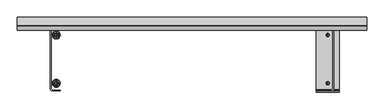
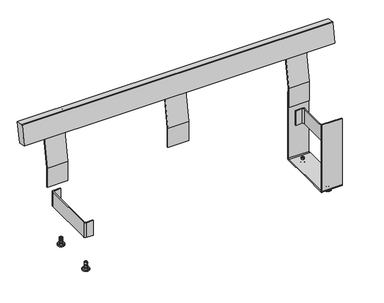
"""IFC4 building model written with IfcOpenShell, lengths in millimetres: furniture geometry, Roros Produkter - Femunden - Bench - 34360 : Roros Produkter - Femunden - Bench - 34360."""

from ifc_helpers import new_model, si_unit, point, frame, frame_2d, origin, place, context, project, spatial, polyline, circle_curve, ellipse_curve, trimmed, segment, composite_curve, outline, extrude, source, transform, mapped, element, save
from ifc_brep_helpers import plane_surface, cylinder_surface, revolved_surface, advanced_brep


def furniture_3aa35da2(model_context):
    return source(origin(), model_context, "Body", "SolidModel", [
        advanced_brep(
        [(-640.0, 160.0527389, 465.6907007), (-640.0, 160.0527389, 349.7), (-640.0, 165.0527389, 349.7), (-640.0, 165.0527389, 465.2180282), (-640.0, 214.1546168, 755.6299996), (-640.0, 211.1768601, 755.6299996), (-760.0, 165.0527389, 465.2180282), (-760.0, 165.0527389, 349.7), (-760.0, 160.0527389, 349.7), (-760.0, 160.0527389, 465.6907007), (-760.0, 211.1768601, 755.6299996), (-760.0, 214.1546168, 755.6299996), (-645.0, 212.058495, 760.6299996), (-755.0, 212.058495, 760.6299996), (-755.0, 215.0, 760.6299996), (-645.0, 215.0, 760.6299996)],
        [
            (0, 1),
            (1, 2),
            (2, 3),
            (3, 4),
            (4, 5),
            (5, 0),
            (6, 7),
            (7, 8),
            (8, 9),
            (9, 10),
            (10, 11),
            (11, 6),
            (0, 9),
            (8, 1),
            (7, 2),
            (6, 3),
            (5, 12, ellipse_curve(frame((-645.0, 211.1768601, 755.6299996), z_axis=(0.0, -0.9848077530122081, 0.17364817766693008), x_axis=(0.0, 0.17364817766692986, 0.9848077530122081)), 5.0771331, 5.0)),
            (12, 13),
            (13, 10, ellipse_curve(frame((-755.0, 211.1768601, 755.6299996), z_axis=(0.0, -0.9848077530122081, 0.17364817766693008), x_axis=(0.0, 0.17364817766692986, 0.9848077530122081)), 5.0771331, 5.0)),
            (11, 14, ellipse_curve(frame((-755.0, 214.1546168, 755.6299996), z_axis=(0.0, 0.9860058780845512, -0.16671055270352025), x_axis=(0.0, 0.16671055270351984, 0.9860058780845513)), 5.0709637, 5.0)),
            (14, 15),
            (15, 4, ellipse_curve(frame((-645.0, 214.1546168, 755.6299996), z_axis=(0.0, 0.9860058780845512, -0.16671055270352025), x_axis=(0.0, 0.16671055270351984, 0.9860058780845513)), 5.0709637, 5.0)),
            (13, 14),
            (12, 15),
        ],
        [
            plane_surface(frame((-640.0, 160.0527389, 464.7720697), z_axis=(1.0, 0.0, 0.0), x_axis=(0.0, 0.0, -1.0))),
            plane_surface(frame((-760.0, 160.0527389, 464.7720697), z_axis=(-1.0, 0.0, 0.0), x_axis=(0.0, 0.0, 1.0))),
            plane_surface(frame((-640.0, 160.0527389, 465.6907007), z_axis=(0.0, -1.0, 0.0), x_axis=(-1.0, 0.0, 0.0))),
            plane_surface(frame((-640.0, 160.0527389, 349.7), z_axis=(0.0, 0.0, -1.0), x_axis=(-1.0, 0.0, 0.0))),
            plane_surface(frame((-640.0, 165.0527389, 349.7), z_axis=(0.0, 1.0, 0.0), x_axis=(-1.0, 0.0, 0.0))),
            plane_surface(frame((-640.0, 212.1471922, 761.1330266), z_axis=(0.0, -0.9848077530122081, 0.17364817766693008), x_axis=(-1.0, 0.0, 0.0))),
            plane_surface(frame((-640.0, 165.0527389, 465.2180282), z_axis=(0.0, 0.9860058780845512, -0.16671055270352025), x_axis=(-1.0, 0.0, 0.0))),
            cylinder_surface(frame((-755.0, 258.5708955, 755.6299996), z_axis=(0.0, 1.0, 0.0), x_axis=(1.0, 0.0, 0.0)), 5.0),
            plane_surface(frame((-755.0, 184.0, 760.6299996), z_axis=(0.0, 0.0, 1.0), x_axis=(0.0, 1.0, 0.0))),
            cylinder_surface(frame((-645.0, 258.5708955, 755.6299996), z_axis=(0.0, 1.0, 0.0), x_axis=(-1.0, 0.0, 0.0)), 5.0),
        ],
        [
            (0, [[1, 2, 3, 4, 5, 6]]),
            (1, [[7, 8, 9, 10, 11, 12]]),
            (2, [[-1, 13, -9, 14]]),
            (3, [[-2, -14, -8, 15]]),
            (4, [[-3, -15, -7, 16]]),
            (5, [[-13, -6, 17, 18, 19, -10]]),
            (6, [[-16, -12, 20, 21, 22, -4]]),
            (7, [[23, -20, -11, -19]]),
            (8, [[-23, -18, 24, -21]]),
            (9, [[-24, -17, -5, -22]]),
        ],
    ),
        advanced_brep(
        [(60.0, 160.0527389, 465.6907007), (60.0, 160.0527389, 349.7), (60.0, 165.0527389, 349.7), (60.0, 165.0527389, 465.2180282), (60.0, 214.1546168, 755.6299996), (60.0, 211.1768601, 755.6299996), (-60.0, 165.0527389, 465.2180282), (-60.0, 165.0527389, 349.7), (-60.0, 160.0527389, 349.7), (-60.0, 160.0527389, 465.6907007), (-60.0, 211.1768601, 755.6299996), (-60.0, 214.1546168, 755.6299996), (55.0, 212.058495, 760.6299996), (-55.0, 212.058495, 760.6299996), (-55.0, 215.0, 760.6299996), (55.0, 215.0, 760.6299996)],
        [
            (0, 1),
            (1, 2),
            (2, 3),
            (3, 4),
            (4, 5),
            (5, 0),
            (6, 7),
            (7, 8),
            (8, 9),
            (9, 10),
            (10, 11),
            (11, 6),
            (0, 9),
            (8, 1),
            (7, 2),
            (6, 3),
            (5, 12, ellipse_curve(frame((55.0, 211.1768601, 755.6299996), z_axis=(0.0, -0.9848077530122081, 0.17364817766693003), x_axis=(0.0, 0.17364817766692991, 0.9848077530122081)), 5.0771331, 5.0)),
            (12, 13),
            (13, 10, ellipse_curve(frame((-55.0, 211.1768601, 755.6299996), z_axis=(0.0, -0.9848077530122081, 0.17364817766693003), x_axis=(0.0, 0.17364817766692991, 0.9848077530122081)), 5.0771331, 5.0)),
            (11, 14, ellipse_curve(frame((-55.0, 214.1546168, 755.6299996), z_axis=(0.0, 0.9860058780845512, -0.16671055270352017), x_axis=(0.0, 0.16671055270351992, 0.9860058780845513)), 5.0709637, 5.0)),
            (14, 15),
            (15, 4, ellipse_curve(frame((55.0, 214.1546168, 755.6299996), z_axis=(0.0, 0.9860058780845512, -0.16671055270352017), x_axis=(0.0, 0.16671055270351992, 0.9860058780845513)), 5.0709637, 5.0)),
            (13, 14),
            (12, 15),
        ],
        [
            plane_surface(frame((60.0, 160.0527389, 464.7720697), z_axis=(1.0, 0.0, 0.0), x_axis=(0.0, 0.0, -1.0))),
            plane_surface(frame((-60.0, 160.0527389, 464.7720697), z_axis=(-1.0, 0.0, 0.0), x_axis=(0.0, 0.0, 1.0))),
            plane_surface(frame((60.0, 160.0527389, 465.6907007), z_axis=(0.0, -1.0, 0.0), x_axis=(-1.0, 0.0, 0.0))),
            plane_surface(frame((60.0, 160.0527389, 349.7), z_axis=(0.0, 0.0, -1.0), x_axis=(-1.0, 0.0, 0.0))),
            plane_surface(frame((60.0, 165.0527389, 349.7), z_axis=(0.0, 1.0, 0.0), x_axis=(-1.0, 0.0, 0.0))),
            plane_surface(frame((60.0, 212.1471922, 761.1330266), z_axis=(0.0, -0.9848077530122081, 0.17364817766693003), x_axis=(-1.0, 0.0, 0.0))),
            plane_surface(frame((60.0, 165.0527389, 465.2180282), z_axis=(0.0, 0.9860058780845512, -0.16671055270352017), x_axis=(-1.0, 0.0, 0.0))),
            cylinder_surface(frame((-55.0, -115.0, 755.6299996), z_axis=(0.0, 1.0, 0.0), x_axis=(1.0, 0.0, 0.0)), 5.0),
            plane_surface(frame((-55.0, 184.0, 760.6299996), z_axis=(0.0, 0.0, 1.0), x_axis=(0.0, 1.0, 0.0))),
            cylinder_surface(frame((55.0, -115.0, 755.6299996), z_axis=(0.0, 1.0, 0.0), x_axis=(-1.0, 0.0, 0.0)), 5.0),
        ],
        [
            (0, [[1, 2, 3, 4, 5, 6]]),
            (1, [[7, 8, 9, 10, 11, 12]]),
            (2, [[-1, 13, -9, 14]]),
            (3, [[-2, -14, -8, 15]]),
            (4, [[-3, -15, -7, 16]]),
            (5, [[-13, -6, 17, 18, 19, -10]]),
            (6, [[-16, -12, 20, 21, 22, -4]]),
            (7, [[23, -20, -11, -19]]),
            (8, [[-23, -18, 24, -21]]),
            (9, [[-24, -17, -5, -22]]),
        ],
    ),
        advanced_brep(
        [(640.0, 165.0527389, 465.2180282), (640.0, 165.0527389, 349.7), (640.0, 160.0527389, 349.7), (640.0, 160.0527389, 465.6907007), (640.0, 211.1768601, 755.6299996), (640.0, 214.1546168, 755.6299996), (760.0, 160.0527389, 465.6907007), (760.0, 160.0527389, 349.7), (760.0, 165.0527389, 349.7), (760.0, 165.0527389, 465.2180282), (760.0, 214.1546168, 755.6299996), (760.0, 211.1768601, 755.6299996), (755.0, 212.058495, 760.6299996), (645.0, 212.058495, 760.6299996), (645.0, 215.0, 760.6299996), (755.0, 215.0, 760.6299996)],
        [
            (0, 1),
            (1, 2),
            (2, 3),
            (3, 4),
            (4, 5),
            (5, 0),
            (6, 7),
            (7, 8),
            (8, 9),
            (9, 10),
            (10, 11),
            (11, 6),
            (2, 7),
            (6, 3),
            (1, 8),
            (0, 9),
            (11, 12, ellipse_curve(frame((755.0, 211.1768601, 755.6299996), z_axis=(0.0, -0.9848077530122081, 0.17364817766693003), x_axis=(0.0, 0.17364817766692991, 0.9848077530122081)), 5.0771331, 5.0)),
            (12, 13),
            (13, 4, ellipse_curve(frame((645.0, 211.1768601, 755.6299996), z_axis=(0.0, -0.9848077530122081, 0.17364817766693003), x_axis=(0.0, 0.17364817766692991, 0.9848077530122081)), 5.0771331, 5.0)),
            (5, 14, ellipse_curve(frame((645.0, 214.1546168, 755.6299996), z_axis=(0.0, 0.9860058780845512, -0.16671055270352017), x_axis=(0.0, 0.16671055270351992, 0.9860058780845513)), 5.0709637, 5.0)),
            (14, 15),
            (15, 10, ellipse_curve(frame((755.0, 214.1546168, 755.6299996), z_axis=(0.0, 0.9860058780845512, -0.16671055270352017), x_axis=(0.0, 0.16671055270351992, 0.9860058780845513)), 5.0709637, 5.0)),
            (13, 14),
            (12, 15),
        ],
        [
            plane_surface(frame((640.0, 212.1471922, 761.1330266), z_axis=(-1.0, 0.0, 0.0), x_axis=(0.0, 0.17364817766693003, 0.9848077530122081))),
            plane_surface(frame((760.0, 212.1471922, 761.1330266), z_axis=(1.0, 0.0, 0.0), x_axis=(0.0, -0.17364817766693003, -0.9848077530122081))),
            plane_surface(frame((640.0, 160.0527389, 349.7), z_axis=(0.0, -1.0, 0.0), x_axis=(1.0, 0.0, 0.0))),
            plane_surface(frame((640.0, 165.0527389, 349.7), z_axis=(0.0, 0.0, -1.0), x_axis=(1.0, 0.0, 0.0))),
            plane_surface(frame((640.0, 165.0527389, 465.2180282), z_axis=(0.0, 1.0, 0.0), x_axis=(1.0, 0.0, 0.0))),
            plane_surface(frame((640.0, 160.0527389, 465.6907007), z_axis=(0.0, -0.9848077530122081, 0.17364817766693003), x_axis=(1.0, 0.0, 0.0))),
            plane_surface(frame((640.0, 215.0, 760.6299996), z_axis=(0.0, 0.9860058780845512, -0.16671055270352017), x_axis=(1.0, 0.0, 0.0))),
            cylinder_surface(frame((645.0, -115.0, 755.6299996), z_axis=(0.0, 1.0, 0.0), x_axis=(1.0, 0.0, 0.0)), 5.0),
            plane_surface(frame((645.0, 184.0, 760.6299996), z_axis=(0.0, 0.0, 1.0), x_axis=(0.0, 1.0, 0.0))),
            cylinder_surface(frame((755.0, -115.0, 755.6299996), z_axis=(0.0, 1.0, 0.0), x_axis=(-1.0, 0.0, 0.0)), 5.0),
        ],
        [
            (0, [[1, 2, 3, 4, 5, 6]]),
            (1, [[7, 8, 9, 10, 11, 12]]),
            (2, [[-3, 13, -7, 14]]),
            (3, [[-2, 15, -8, -13]]),
            (4, [[-1, 16, -9, -15]]),
            (5, [[-14, -12, 17, 18, 19, -4]]),
            (6, [[-16, -6, 20, 21, 22, -10]]),
            (7, [[23, -20, -5, -19]]),
            (8, [[-23, -18, 24, -21]]),
            (9, [[-24, -17, -11, -22]]),
        ],
    ),
        extrude(outline(composite_curve([segment(polyline([(172.4690095, 778.2836269), (215.0, 770.7842657), (192.9931538, 652.8134731), (148.6768049, 660.6276411), (168.9936417, 775.8501482)]), True, "CONTINUOUS"), segment(trimmed(circle_curve(frame_2d((171.9480649, 775.3292036)), 3.0), [point((168.9936417, 775.8501482))], [point((172.4690095, 778.2836269))], False, "CARTESIAN"), True, "CONTINUOUS")], self_intersect=False)), frame((-900.0, 0.0, 0.0), z_axis=(1.0, 0.0, 0.0), x_axis=(0.0, 1.0, 0.0)), (0.0, 0.0, 1.0), 1800.0),
        extrude(outline(composite_curve([segment(trimmed(circle_curve(frame_2d((719.15, 154.0)), 6.0), [point((725.15, 154.0))], [point((719.15, 160.0))], True, "CARTESIAN"), True, "CONTINUOUS"), segment(polyline([(719.15, 160.0), (680.15, 160.0), (680.15, 165.0), (720.15, 165.0)]), True, "CONTINUOUS"), segment(trimmed(circle_curve(frame_2d((720.15, 155.0)), 10.0), [point((720.15, 165.0))], [point((730.15, 155.0))], False, "CARTESIAN"), True, "CONTINUOUS"), segment(polyline([(730.15, 155.0), (730.15, -154.0)]), True, "CONTINUOUS"), segment(trimmed(circle_curve(frame_2d((720.15, -154.0)), 10.0), [point((730.15, -154.0))], [point((720.15, -164.0))], False, "CARTESIAN"), True, "CONTINUOUS"), segment(polyline([(720.15, -164.0), (680.15, -164.0), (680.15, -159.0), (719.15, -159.0)]), True, "CONTINUOUS"), segment(trimmed(circle_curve(frame_2d((719.15, -153.0)), 6.0), [point((719.15, -159.0))], [point((725.15, -153.0))], True, "CARTESIAN"), True, "CONTINUOUS"), segment(polyline([(725.15, -153.0), (725.15, 154.0)]), True, "CONTINUOUS")], self_intersect=False)), frame((0.0, 0.0, 225.6), z_axis=(0.0, 0.0, 1.0), x_axis=(1.0, 0.0, 0.0)), (0.0, 0.0, 1.0), 90.0),
        advanced_brep(
        [(700.0, -119.5, 43.4), (700.0, -129.5, 43.4), (700.0, -133.0, 43.4), (700.0, -116.0, 43.4), (700.0, -119.5, 48.0), (700.0, -129.5, 48.0), (700.0, -124.5, 48.0), (700.0, -104.5, 0.0), (700.0, -144.5, 0.0), (700.0, -124.5, 0.0), (700.0, -104.5, 4.3619998), (700.0, -144.5, 4.3619998), (700.0, -105.4699238, 6.0763344), (700.0, -143.5300761, 6.0763344), (700.0, -112.0, 10.0), (700.0, -137.0, 10.0), (700.0, -115.25, 10.0), (700.0, -133.75, 10.0), (700.0, -115.25, 12.0), (700.0, -133.75, 12.0), (700.0, -117.584004, 12.0), (700.0, -131.415996, 12.0), (700.0, -117.584004, 18.0), (700.0, -131.415996, 18.0), (700.0, -116.0, 18.0), (700.0, -133.0, 18.0), (700.0, -116.0, 25.7), (700.0, -133.0, 25.7), (700.0, -119.5, 25.7), (700.0, -129.5, 25.7), (700.0, -119.5, 35.7), (700.0, -129.5, 35.7), (700.0, -116.0, 35.7), (700.0, -133.0, 35.7)],
        [
            (0, 1, circle_curve(frame((700.0, -124.5, 43.4), z_axis=(0.0, 0.0, -1.0), x_axis=(0.0, -1.0, 0.0)), 5.0)),
            (1, 2),
            (2, 3, circle_curve(frame((700.0, -124.5, 43.4), z_axis=(0.0, 0.0, 1.0), x_axis=(0.0, -1.0, 0.0)), 8.5)),
            (3, 0),
            (1, 0, circle_curve(frame((700.0, -124.5, 43.4), z_axis=(0.0, 0.0, -1.0), x_axis=(0.0, -1.0, 0.0)), 5.0)),
            (3, 2, circle_curve(frame((700.0, -124.5, 43.4), z_axis=(0.0, 0.0, 1.0), x_axis=(0.0, -1.0, 0.0)), 8.5)),
            (4, 5, circle_curve(frame((700.0, -124.5, 48.0), z_axis=(0.0, 0.0, -1.0), x_axis=(0.0, -1.0, 0.0)), 5.0)),
            (5, 1),
            (0, 4),
            (5, 4, circle_curve(frame((700.0, -124.5, 48.0), z_axis=(0.0, 0.0, -1.0), x_axis=(0.0, -1.0, 0.0)), 5.0)),
            (6, 5),
            (4, 6),
            (7, 8, circle_curve(frame((700.0, -124.5, 0.0), z_axis=(0.0, 0.0, -1.0), x_axis=(0.0, -1.0, 0.0)), 20.0)),
            (8, 9),
            (9, 7),
            (8, 7, circle_curve(frame((700.0, -124.5, 0.0), z_axis=(0.0, 0.0, -1.0), x_axis=(0.0, -1.0, 0.0)), 20.0)),
            (10, 11, circle_curve(frame((700.0, -124.5, 4.3619998), z_axis=(0.0, 0.0, -1.0), x_axis=(0.0, -1.0, 0.0)), 20.0)),
            (11, 8),
            (7, 10),
            (11, 10, circle_curve(frame((700.0, -124.5, 4.3619998), z_axis=(0.0, 0.0, -1.0), x_axis=(0.0, -1.0, 0.0)), 20.0)),
            (12, 13, circle_curve(frame((700.0, -124.5, 6.0763344), z_axis=(0.0, 0.0, -1.0), x_axis=(0.0, -1.0, 0.0)), 19.0300761)),
            (13, 11, circle_curve(frame((700.0, -142.5, 4.3619998), z_axis=(1.0, 0.0, 0.0), x_axis=(0.0, 1.0, 0.0)), 2.0)),
            (10, 12, circle_curve(frame((700.0, -106.5, 4.3619998), z_axis=(1.0, 0.0, 0.0), x_axis=(0.0, -1.0, 0.0)), 2.0)),
            (13, 12, circle_curve(frame((700.0, -124.5, 6.0763344), z_axis=(0.0, 0.0, -1.0), x_axis=(0.0, -1.0, 0.0)), 19.0300761)),
            (14, 15, circle_curve(frame((700.0, -124.5, 10.0), z_axis=(0.0, 0.0, -1.0), x_axis=(0.0, -1.0, 0.0)), 12.5)),
            (15, 13),
            (12, 14),
            (15, 14, circle_curve(frame((700.0, -124.5, 10.0), z_axis=(0.0, 0.0, -1.0), x_axis=(0.0, -1.0, 0.0)), 12.5)),
            (16, 17, circle_curve(frame((700.0, -124.5, 10.0), z_axis=(0.0, 0.0, -1.0), x_axis=(0.0, -1.0, 0.0)), 9.25)),
            (17, 15),
            (14, 16),
            (17, 16, circle_curve(frame((700.0, -124.5, 10.0), z_axis=(0.0, 0.0, -1.0), x_axis=(0.0, -1.0, 0.0)), 9.25)),
            (18, 19, circle_curve(frame((700.0, -124.5, 12.0), z_axis=(0.0, 0.0, -1.0), x_axis=(0.0, -1.0, 0.0)), 9.25)),
            (19, 17),
            (16, 18),
            (19, 18, circle_curve(frame((700.0, -124.5, 12.0), z_axis=(0.0, 0.0, -1.0), x_axis=(0.0, -1.0, 0.0)), 9.25)),
            (20, 21, circle_curve(frame((700.0, -124.5, 12.0), z_axis=(0.0, 0.0, -1.0), x_axis=(0.0, -1.0, 0.0)), 6.915996)),
            (21, 19),
            (18, 20),
            (21, 20, circle_curve(frame((700.0, -124.5, 12.0), z_axis=(0.0, 0.0, -1.0), x_axis=(0.0, -1.0, 0.0)), 6.915996)),
            (22, 23, circle_curve(frame((700.0, -124.5, 18.0), z_axis=(0.0, 0.0, -1.0), x_axis=(0.0, -1.0, 0.0)), 6.915996)),
            (23, 21),
            (20, 22),
            (23, 22, circle_curve(frame((700.0, -124.5, 18.0), z_axis=(0.0, 0.0, -1.0), x_axis=(0.0, -1.0, 0.0)), 6.915996)),
            (24, 25, circle_curve(frame((700.0, -124.5, 18.0), z_axis=(0.0, 0.0, -1.0), x_axis=(0.0, -1.0, 0.0)), 8.5)),
            (25, 23),
            (22, 24),
            (25, 24, circle_curve(frame((700.0, -124.5, 18.0), z_axis=(0.0, 0.0, -1.0), x_axis=(0.0, -1.0, 0.0)), 8.5)),
            (26, 27, circle_curve(frame((700.0, -124.5, 25.7), z_axis=(0.0, 0.0, -1.0), x_axis=(0.0, -1.0, 0.0)), 8.5)),
            (27, 25),
            (24, 26),
            (27, 26, circle_curve(frame((700.0, -124.5, 25.7), z_axis=(0.0, 0.0, -1.0), x_axis=(0.0, -1.0, 0.0)), 8.5)),
            (28, 29, circle_curve(frame((700.0, -124.5, 25.7), z_axis=(0.0, 0.0, -1.0), x_axis=(0.0, -1.0, 0.0)), 5.0)),
            (29, 27),
            (26, 28),
            (29, 28, circle_curve(frame((700.0, -124.5, 25.7), z_axis=(0.0, 0.0, -1.0), x_axis=(0.0, -1.0, 0.0)), 5.0)),
            (30, 31, circle_curve(frame((700.0, -124.5, 35.7), z_axis=(0.0, 0.0, -1.0), x_axis=(0.0, -1.0, 0.0)), 5.0)),
            (31, 29),
            (28, 30),
            (31, 30, circle_curve(frame((700.0, -124.5, 35.7), z_axis=(0.0, 0.0, -1.0), x_axis=(0.0, -1.0, 0.0)), 5.0)),
            (32, 33, circle_curve(frame((700.0, -124.5, 35.7), z_axis=(0.0, 0.0, -1.0), x_axis=(0.0, -1.0, 0.0)), 8.5)),
            (33, 31),
            (30, 32),
            (33, 32, circle_curve(frame((700.0, -124.5, 35.7), z_axis=(0.0, 0.0, -1.0), x_axis=(0.0, -1.0, 0.0)), 8.5)),
            (2, 33),
            (32, 3),
        ],
        [
            plane_surface(frame((700.0, -124.5, 43.4), z_axis=(0.0, 0.0, 1.0), x_axis=(0.0, -1.0, 0.0))),
            cylinder_surface(frame((700.0, -124.5, 48.0), z_axis=(0.0, 0.0, 1.0), x_axis=(0.0, -1.0, 0.0)), 5.0),
            plane_surface(frame((700.0, -124.5, 48.0), z_axis=(0.0, 0.0, 1.0), x_axis=(0.0, -1.0, 0.0))),
            plane_surface(frame((700.0, -124.5, 0.0), z_axis=(0.0, 0.0, -1.0), x_axis=(0.0, -1.0, 0.0))),
            cylinder_surface(frame((700.0, -124.5, 48.0), z_axis=(0.0, 0.0, 1.0), x_axis=(0.0, -1.0, 0.0)), 20.0),
            revolved_surface(trimmed(ellipse_curve(frame((700.0, -142.5, 4.3619998), z_axis=(-1.0, 0.0, 0.0), x_axis=(0.0, 1.0, 0.0)), 2.0, 2.0), [point((700.0, -144.5, 4.3619998))], [point((700.0, -143.5300761, 6.0763344))], True, "CARTESIAN"), (700.0, -124.5, 48.0), (0.0, 0.0, 1.0)),
            revolved_surface(polyline([(700.0, -143.5300761, 6.0763344), (700.0, -137.0, 10.0)]), (700.0, -124.5, 48.0), (0.0, 0.0, 1.0)),
            plane_surface(frame((700.0, -124.5, 10.0), z_axis=(0.0, 0.0, 1.0), x_axis=(0.0, -1.0, 0.0))),
            cylinder_surface(frame((700.0, -124.5, 48.0), z_axis=(0.0, 0.0, 1.0), x_axis=(0.0, -1.0, 0.0)), 9.25),
            plane_surface(frame((700.0, -124.5, 12.0), z_axis=(0.0, 0.0, 1.0), x_axis=(0.0, -1.0, 0.0))),
            cylinder_surface(frame((700.0, -124.5, 48.0), z_axis=(0.0, 0.0, 1.0), x_axis=(0.0, -1.0, 0.0)), 6.915996),
            plane_surface(frame((700.0, -124.5, 18.0), z_axis=(0.0, 0.0, -1.0), x_axis=(0.0, -1.0, 0.0))),
            cylinder_surface(frame((700.0, -124.5, 48.0), z_axis=(0.0, 0.0, 1.0), x_axis=(0.0, -1.0, 0.0)), 8.5),
            plane_surface(frame((700.0, -124.5, 25.7), z_axis=(0.0, 0.0, 1.0), x_axis=(0.0, -1.0, 0.0))),
            plane_surface(frame((700.0, -124.5, 35.7), z_axis=(0.0, 0.0, -1.0), x_axis=(0.0, -1.0, 0.0))),
        ],
        [
            (0, [[1, 2, 3, 4]]),
            (0, [[5, -4, 6, -2]]),
            (1, [[7, 8, -1, 9]]),
            (1, [[10, -9, -5, -8]]),
            (2, [[11, -7, 12]]),
            (2, [[-12, -10, -11]]),
            (3, [[13, 14, 15]]),
            (3, [[16, -15, -14]]),
            (4, [[17, 18, -13, 19]]),
            (4, [[20, -19, -16, -18]]),
            (5, [[21, 22, -17, 23]]),
            (5, [[24, -23, -20, -22]]),
            (6, [[25, 26, -21, 27]]),
            (6, [[28, -27, -24, -26]]),
            (7, [[29, 30, -25, 31]]),
            (7, [[32, -31, -28, -30]]),
            (8, [[33, 34, -29, 35]]),
            (8, [[36, -35, -32, -34]]),
            (9, [[37, 38, -33, 39]]),
            (9, [[40, -39, -36, -38]]),
            (10, [[41, 42, -37, 43]]),
            (10, [[44, -43, -40, -42]]),
            (11, [[45, 46, -41, 47]]),
            (11, [[48, -47, -44, -46]]),
            (12, [[49, 50, -45, 51]]),
            (12, [[52, -51, -48, -50]]),
            (13, [[53, 54, -49, 55]]),
            (13, [[56, -55, -52, -54]]),
            (1, [[57, 58, -53, 59]]),
            (1, [[60, -59, -56, -58]]),
            (14, [[61, 62, -57, 63]]),
            (14, [[64, -63, -60, -62]]),
            (12, [[-3, 65, -61, 66]]),
            (12, [[-6, -66, -64, -65]]),
        ],
    ),
        advanced_brep(
        [(700.0, 116.0, 43.4), (700.0, 133.0, 43.4), (700.0, 129.5, 43.4), (700.0, 119.5, 43.4), (700.0, 129.5, 48.0), (700.0, 119.5, 48.0), (700.0, 124.5, 48.0), (700.0, 124.5, 0.0), (700.0, 144.5, 0.0), (700.0, 104.5, 0.0), (700.0, 144.5, 4.3619998), (700.0, 104.5, 4.3619998), (700.0, 143.5300761, 6.0763344), (700.0, 105.4699238, 6.0763344), (700.0, 137.0, 10.0), (700.0, 112.0, 10.0), (700.0, 133.75, 10.0), (700.0, 115.25, 10.0), (700.0, 133.75, 12.0), (700.0, 115.25, 12.0), (700.0, 131.415996, 12.0), (700.0, 117.584004, 12.0), (700.0, 131.415996, 18.0), (700.0, 117.584004, 18.0), (700.0, 133.0, 18.0), (700.0, 116.0, 18.0), (700.0, 133.0, 25.7), (700.0, 116.0, 25.7), (700.0, 129.5, 25.7), (700.0, 119.5, 25.7), (700.0, 129.5, 35.7), (700.0, 119.5, 35.7), (700.0, 133.0, 35.7), (700.0, 116.0, 35.7)],
        [
            (0, 1, circle_curve(frame((700.0, 124.5, 43.4), z_axis=(0.0, 0.0, 1.0), x_axis=(0.0, 1.0, 0.0)), 8.5)),
            (1, 2),
            (2, 3, circle_curve(frame((700.0, 124.5, 43.4), z_axis=(0.0, 0.0, -1.0), x_axis=(0.0, 1.0, 0.0)), 5.0)),
            (3, 0),
            (1, 0, circle_curve(frame((700.0, 124.5, 43.4), z_axis=(0.0, 0.0, 1.0), x_axis=(0.0, 1.0, 0.0)), 8.5)),
            (3, 2, circle_curve(frame((700.0, 124.5, 43.4), z_axis=(0.0, 0.0, -1.0), x_axis=(0.0, 1.0, 0.0)), 5.0)),
            (2, 4),
            (4, 5, circle_curve(frame((700.0, 124.5, 48.0), z_axis=(0.0, 0.0, -1.0), x_axis=(0.0, 1.0, 0.0)), 5.0)),
            (5, 3),
            (5, 4, circle_curve(frame((700.0, 124.5, 48.0), z_axis=(0.0, 0.0, -1.0), x_axis=(0.0, 1.0, 0.0)), 5.0)),
            (4, 6),
            (6, 5),
            (7, 8),
            (8, 9, circle_curve(frame((700.0, 124.5, 0.0), z_axis=(0.0, 0.0, -1.0), x_axis=(0.0, 1.0, 0.0)), 20.0)),
            (9, 7),
            (9, 8, circle_curve(frame((700.0, 124.5, 0.0), z_axis=(0.0, 0.0, -1.0), x_axis=(0.0, 1.0, 0.0)), 20.0)),
            (8, 10),
            (10, 11, circle_curve(frame((700.0, 124.5, 4.3619998), z_axis=(0.0, 0.0, -1.0), x_axis=(0.0, 1.0, 0.0)), 20.0)),
            (11, 9),
            (11, 10, circle_curve(frame((700.0, 124.5, 4.3619998), z_axis=(0.0, 0.0, -1.0), x_axis=(0.0, 1.0, 0.0)), 20.0)),
            (10, 12, circle_curve(frame((700.0, 142.5, 4.3619998), z_axis=(1.0, 0.0, 0.0), x_axis=(0.0, -1.0, 0.0)), 2.0)),
            (12, 13, circle_curve(frame((700.0, 124.5, 6.0763344), z_axis=(0.0, 0.0, -1.0), x_axis=(0.0, 1.0, 0.0)), 19.0300761)),
            (13, 11, circle_curve(frame((700.0, 106.5, 4.3619998), z_axis=(1.0, 0.0, 0.0), x_axis=(0.0, 1.0, 0.0)), 2.0)),
            (13, 12, circle_curve(frame((700.0, 124.5, 6.0763344), z_axis=(0.0, 0.0, -1.0), x_axis=(0.0, 1.0, 0.0)), 19.0300761)),
            (12, 14),
            (14, 15, circle_curve(frame((700.0, 124.5, 10.0), z_axis=(0.0, 0.0, -1.0), x_axis=(0.0, 1.0, 0.0)), 12.5)),
            (15, 13),
            (15, 14, circle_curve(frame((700.0, 124.5, 10.0), z_axis=(0.0, 0.0, -1.0), x_axis=(0.0, 1.0, 0.0)), 12.5)),
            (14, 16),
            (16, 17, circle_curve(frame((700.0, 124.5, 10.0), z_axis=(0.0, 0.0, -1.0), x_axis=(0.0, 1.0, 0.0)), 9.25)),
            (17, 15),
            (17, 16, circle_curve(frame((700.0, 124.5, 10.0), z_axis=(0.0, 0.0, -1.0), x_axis=(0.0, 1.0, 0.0)), 9.25)),
            (16, 18),
            (18, 19, circle_curve(frame((700.0, 124.5, 12.0), z_axis=(0.0, 0.0, -1.0), x_axis=(0.0, 1.0, 0.0)), 9.25)),
            (19, 17),
            (19, 18, circle_curve(frame((700.0, 124.5, 12.0), z_axis=(0.0, 0.0, -1.0), x_axis=(0.0, 1.0, 0.0)), 9.25)),
            (18, 20),
            (20, 21, circle_curve(frame((700.0, 124.5, 12.0), z_axis=(0.0, 0.0, -1.0), x_axis=(0.0, 1.0, 0.0)), 6.915996)),
            (21, 19),
            (21, 20, circle_curve(frame((700.0, 124.5, 12.0), z_axis=(0.0, 0.0, -1.0), x_axis=(0.0, 1.0, 0.0)), 6.915996)),
            (20, 22),
            (22, 23, circle_curve(frame((700.0, 124.5, 18.0), z_axis=(0.0, 0.0, -1.0), x_axis=(0.0, 1.0, 0.0)), 6.915996)),
            (23, 21),
            (23, 22, circle_curve(frame((700.0, 124.5, 18.0), z_axis=(0.0, 0.0, -1.0), x_axis=(0.0, 1.0, 0.0)), 6.915996)),
            (22, 24),
            (24, 25, circle_curve(frame((700.0, 124.5, 18.0), z_axis=(0.0, 0.0, -1.0), x_axis=(0.0, 1.0, 0.0)), 8.5)),
            (25, 23),
            (25, 24, circle_curve(frame((700.0, 124.5, 18.0), z_axis=(0.0, 0.0, -1.0), x_axis=(0.0, 1.0, 0.0)), 8.5)),
            (24, 26),
            (26, 27, circle_curve(frame((700.0, 124.5, 25.7), z_axis=(0.0, 0.0, -1.0), x_axis=(0.0, 1.0, 0.0)), 8.5)),
            (27, 25),
            (27, 26, circle_curve(frame((700.0, 124.5, 25.7), z_axis=(0.0, 0.0, -1.0), x_axis=(0.0, 1.0, 0.0)), 8.5)),
            (26, 28),
            (28, 29, circle_curve(frame((700.0, 124.5, 25.7), z_axis=(0.0, 0.0, -1.0), x_axis=(0.0, 1.0, 0.0)), 5.0)),
            (29, 27),
            (29, 28, circle_curve(frame((700.0, 124.5, 25.7), z_axis=(0.0, 0.0, -1.0), x_axis=(0.0, 1.0, 0.0)), 5.0)),
            (28, 30),
            (30, 31, circle_curve(frame((700.0, 124.5, 35.7), z_axis=(0.0, 0.0, -1.0), x_axis=(0.0, 1.0, 0.0)), 5.0)),
            (31, 29),
            (31, 30, circle_curve(frame((700.0, 124.5, 35.7), z_axis=(0.0, 0.0, -1.0), x_axis=(0.0, 1.0, 0.0)), 5.0)),
            (30, 32),
            (32, 33, circle_curve(frame((700.0, 124.5, 35.7), z_axis=(0.0, 0.0, -1.0), x_axis=(0.0, 1.0, 0.0)), 8.5)),
            (33, 31),
            (33, 32, circle_curve(frame((700.0, 124.5, 35.7), z_axis=(0.0, 0.0, -1.0), x_axis=(0.0, 1.0, 0.0)), 8.5)),
            (32, 1),
            (0, 33),
        ],
        [
            plane_surface(frame((700.0, 124.5, 43.4), z_axis=(0.0, 0.0, 1.0), x_axis=(0.0, 1.0, 0.0))),
            cylinder_surface(frame((700.0, 124.5, 48.0), z_axis=(0.0, 0.0, -1.0), x_axis=(0.0, 1.0, 0.0)), 5.0),
            plane_surface(frame((700.0, 124.5, 48.0), z_axis=(0.0, 0.0, 1.0), x_axis=(0.0, 1.0, 0.0))),
            plane_surface(frame((700.0, 124.5, 0.0), z_axis=(0.0, 0.0, -1.0), x_axis=(0.0, 1.0, 0.0))),
            cylinder_surface(frame((700.0, 124.5, 48.0), z_axis=(0.0, 0.0, -1.0), x_axis=(0.0, 1.0, 0.0)), 20.0),
            revolved_surface(trimmed(ellipse_curve(frame((700.0, 142.5, 4.3619998), z_axis=(-1.0, 0.0, 0.0), x_axis=(0.0, -1.0, 0.0)), 2.0, 2.0), [point((700.0, 143.5300761, 6.0763344))], [point((700.0, 144.5, 4.3619998))], True, "CARTESIAN"), (700.0, 124.5, 48.0), (0.0, 0.0, -1.0)),
            revolved_surface(polyline([(700.0, 137.0, 10.0), (700.0, 143.5300761, 6.0763344)]), (700.0, 124.5, 48.0), (0.0, 0.0, -1.0)),
            plane_surface(frame((700.0, 124.5, 10.0), z_axis=(0.0, 0.0, 1.0), x_axis=(0.0, 1.0, 0.0))),
            cylinder_surface(frame((700.0, 124.5, 48.0), z_axis=(0.0, 0.0, -1.0), x_axis=(0.0, 1.0, 0.0)), 9.25),
            plane_surface(frame((700.0, 124.5, 12.0), z_axis=(0.0, 0.0, 1.0), x_axis=(0.0, 1.0, 0.0))),
            cylinder_surface(frame((700.0, 124.5, 48.0), z_axis=(0.0, 0.0, -1.0), x_axis=(0.0, 1.0, 0.0)), 6.915996),
            plane_surface(frame((700.0, 124.5, 18.0), z_axis=(0.0, 0.0, -1.0), x_axis=(0.0, 1.0, 0.0))),
            cylinder_surface(frame((700.0, 124.5, 48.0), z_axis=(0.0, 0.0, -1.0), x_axis=(0.0, 1.0, 0.0)), 8.5),
            plane_surface(frame((700.0, 124.5, 25.7), z_axis=(0.0, 0.0, 1.0), x_axis=(0.0, 1.0, 0.0))),
            plane_surface(frame((700.0, 124.5, 35.7), z_axis=(0.0, 0.0, -1.0), x_axis=(0.0, 1.0, 0.0))),
        ],
        [
            (0, [[1, 2, 3, 4]]),
            (0, [[5, -4, 6, -2]]),
            (1, [[-3, 7, 8, 9]]),
            (1, [[-6, -9, 10, -7]]),
            (2, [[-8, 11, 12]]),
            (2, [[-10, -12, -11]]),
            (3, [[13, 14, 15]]),
            (3, [[-15, 16, -13]]),
            (4, [[-14, 17, 18, 19]]),
            (4, [[-16, -19, 20, -17]]),
            (5, [[-18, 21, 22, 23]]),
            (5, [[-20, -23, 24, -21]]),
            (6, [[-22, 25, 26, 27]]),
            (6, [[-24, -27, 28, -25]]),
            (7, [[-26, 29, 30, 31]]),
            (7, [[-28, -31, 32, -29]]),
            (8, [[-30, 33, 34, 35]]),
            (8, [[-32, -35, 36, -33]]),
            (9, [[-34, 37, 38, 39]]),
            (9, [[-36, -39, 40, -37]]),
            (10, [[-38, 41, 42, 43]]),
            (10, [[-40, -43, 44, -41]]),
            (11, [[-42, 45, 46, 47]]),
            (11, [[-44, -47, 48, -45]]),
            (12, [[-46, 49, 50, 51]]),
            (12, [[-48, -51, 52, -49]]),
            (13, [[-50, 53, 54, 55]]),
            (13, [[-52, -55, 56, -53]]),
            (1, [[-54, 57, 58, 59]]),
            (1, [[-56, -59, 60, -57]]),
            (14, [[-58, 61, 62, 63]]),
            (14, [[-60, -63, 64, -61]]),
            (12, [[-62, 65, -1, 66]]),
            (12, [[-64, -66, -5, -65]]),
        ],
    ),
        extrude(outline(composite_curve([segment(polyline([(165.0, 441.7), (170.0, 441.7), (170.0, 35.7)]), True, "CONTINUOUS"), segment(trimmed(circle_curve(frame_2d((160.0, 35.7)), 10.0), [point((170.0, 35.7))], [point((160.0, 25.7))], False, "CARTESIAN"), True, "CONTINUOUS"), segment(polyline([(160.0, 25.7), (90.0, 25.7), (90.0, 30.7), (-90.0, 30.7), (-90.0, 25.7), (-160.0, 25.7)]), True, "CONTINUOUS"), segment(trimmed(circle_curve(frame_2d((-160.0, 35.7)), 10.0), [point((-160.0, 25.7))], [point((-170.0, 35.7))], False, "CARTESIAN"), True, "CONTINUOUS"), segment(polyline([(-170.0, 35.7), (-170.0, 441.7), (-165.0, 441.7), (-165.0, 36.7)]), True, "CONTINUOUS"), segment(trimmed(circle_curve(frame_2d((-159.0, 36.7)), 6.0), [point((-165.0, 36.7))], [point((-159.0, 30.7))], True, "CARTESIAN"), True, "CONTINUOUS"), segment(polyline([(-159.0, 30.7), (-154.0, 30.7), (-154.0, 35.7), (154.0, 35.7), (154.0, 30.7), (159.0, 30.7)]), True, "CONTINUOUS"), segment(trimmed(circle_curve(frame_2d((159.0, 36.7)), 6.0), [point((159.0, 30.7))], [point((165.0, 36.7))], True, "CARTESIAN"), True, "CONTINUOUS"), segment(polyline([(165.0, 36.7), (165.0, 441.7)]), True, "CONTINUOUS")], self_intersect=False)), frame((640.0, 0.0, 0.0), z_axis=(1.0, 0.0, 0.0), x_axis=(0.0, 1.0, 0.0)), (0.0, 0.0, 1.0), 120.0),
        extrude(outline(composite_curve([segment(polyline([(-725.15, 154.0), (-725.15, -153.0)]), True, "CONTINUOUS"), segment(trimmed(circle_curve(frame_2d((-719.15, -153.0)), 6.0), [point((-725.15, -153.0))], [point((-719.15, -159.0))], True, "CARTESIAN"), True, "CONTINUOUS"), segment(polyline([(-719.15, -159.0), (-680.15, -159.0), (-680.15, -164.0), (-720.15, -164.0)]), True, "CONTINUOUS"), segment(trimmed(circle_curve(frame_2d((-720.15, -154.0)), 10.0), [point((-720.15, -164.0))], [point((-730.15, -154.0))], False, "CARTESIAN"), True, "CONTINUOUS"), segment(polyline([(-730.15, -154.0), (-730.15, 155.0)]), True, "CONTINUOUS"), segment(trimmed(circle_curve(frame_2d((-720.15, 155.0)), 10.0), [point((-730.15, 155.0))], [point((-720.15, 165.0))], False, "CARTESIAN"), True, "CONTINUOUS"), segment(polyline([(-720.15, 165.0), (-680.15, 165.0), (-680.15, 160.0), (-719.15, 160.0)]), True, "CONTINUOUS"), segment(trimmed(circle_curve(frame_2d((-719.15, 154.0)), 6.0), [point((-719.15, 160.0))], [point((-725.15, 154.0))], True, "CARTESIAN"), True, "CONTINUOUS")], self_intersect=False)), frame((0.0, 0.0, 225.6), z_axis=(0.0, 0.0, 1.0), x_axis=(1.0, 0.0, 0.0)), (0.0, 0.0, 1.0), 90.0),
        advanced_brep(
        [(-700.0, -116.0, 43.4), (-700.0, -133.0, 43.4), (-700.0, -129.5, 43.4), (-700.0, -119.5, 43.4), (-700.0, -129.5, 48.0), (-700.0, -119.5, 48.0), (-700.0, -124.5, 48.0), (-700.0, -124.5, 0.0), (-700.0, -144.5, 0.0), (-700.0, -104.5, 0.0), (-700.0, -144.5, 4.3619998), (-700.0, -104.5, 4.3619998), (-700.0, -143.5300761, 6.0763344), (-700.0, -105.4699238, 6.0763344), (-700.0, -137.0, 10.0), (-700.0, -112.0, 10.0), (-700.0, -133.75, 10.0), (-700.0, -115.25, 10.0), (-700.0, -133.75, 12.0), (-700.0, -115.25, 12.0), (-700.0, -131.415996, 12.0), (-700.0, -117.584004, 12.0), (-700.0, -131.415996, 18.0), (-700.0, -117.584004, 18.0), (-700.0, -133.0, 18.0), (-700.0, -116.0, 18.0), (-700.0, -133.0, 25.7), (-700.0, -116.0, 25.7), (-700.0, -129.5, 25.7), (-700.0, -119.5, 25.7), (-700.0, -129.5, 35.7), (-700.0, -119.5, 35.7), (-700.0, -133.0, 35.7), (-700.0, -116.0, 35.7)],
        [
            (0, 1, circle_curve(frame((-700.0, -124.5, 43.4), z_axis=(0.0, 0.0, 1.0), x_axis=(0.0, -1.0, 0.0)), 8.5)),
            (1, 2),
            (2, 3, circle_curve(frame((-700.0, -124.5, 43.4), z_axis=(0.0, 0.0, -1.0), x_axis=(0.0, -1.0, 0.0)), 5.0)),
            (3, 0),
            (1, 0, circle_curve(frame((-700.0, -124.5, 43.4), z_axis=(0.0, 0.0, 1.0), x_axis=(0.0, -1.0, 0.0)), 8.5)),
            (3, 2, circle_curve(frame((-700.0, -124.5, 43.4), z_axis=(0.0, 0.0, -1.0), x_axis=(0.0, -1.0, 0.0)), 5.0)),
            (2, 4),
            (4, 5, circle_curve(frame((-700.0, -124.5, 48.0), z_axis=(0.0, 0.0, -1.0), x_axis=(0.0, -1.0, 0.0)), 5.0)),
            (5, 3),
            (5, 4, circle_curve(frame((-700.0, -124.5, 48.0), z_axis=(0.0, 0.0, -1.0), x_axis=(0.0, -1.0, 0.0)), 5.0)),
            (4, 6),
            (6, 5),
            (7, 8),
            (8, 9, circle_curve(frame((-700.0, -124.5, 0.0), z_axis=(0.0, 0.0, -1.0), x_axis=(0.0, -1.0, 0.0)), 20.0)),
            (9, 7),
            (9, 8, circle_curve(frame((-700.0, -124.5, 0.0), z_axis=(0.0, 0.0, -1.0), x_axis=(0.0, -1.0, 0.0)), 20.0)),
            (8, 10),
            (10, 11, circle_curve(frame((-700.0, -124.5, 4.3619998), z_axis=(0.0, 0.0, -1.0), x_axis=(0.0, -1.0, 0.0)), 20.0)),
            (11, 9),
            (11, 10, circle_curve(frame((-700.0, -124.5, 4.3619998), z_axis=(0.0, 0.0, -1.0), x_axis=(0.0, -1.0, 0.0)), 20.0)),
            (10, 12, circle_curve(frame((-700.0, -142.5, 4.3619998), z_axis=(-1.0, 0.0, 0.0), x_axis=(0.0, 1.0, 0.0)), 2.0)),
            (12, 13, circle_curve(frame((-700.0, -124.5, 6.0763344), z_axis=(0.0, 0.0, -1.0), x_axis=(0.0, -1.0, 0.0)), 19.0300761)),
            (13, 11, circle_curve(frame((-700.0, -106.5, 4.3619998), z_axis=(-1.0, 0.0, 0.0), x_axis=(0.0, -1.0, 0.0)), 2.0)),
            (13, 12, circle_curve(frame((-700.0, -124.5, 6.0763344), z_axis=(0.0, 0.0, -1.0), x_axis=(0.0, -1.0, 0.0)), 19.0300761)),
            (12, 14),
            (14, 15, circle_curve(frame((-700.0, -124.5, 10.0), z_axis=(0.0, 0.0, -1.0), x_axis=(0.0, -1.0, 0.0)), 12.5)),
            (15, 13),
            (15, 14, circle_curve(frame((-700.0, -124.5, 10.0), z_axis=(0.0, 0.0, -1.0), x_axis=(0.0, -1.0, 0.0)), 12.5)),
            (14, 16),
            (16, 17, circle_curve(frame((-700.0, -124.5, 10.0), z_axis=(0.0, 0.0, -1.0), x_axis=(0.0, -1.0, 0.0)), 9.25)),
            (17, 15),
            (17, 16, circle_curve(frame((-700.0, -124.5, 10.0), z_axis=(0.0, 0.0, -1.0), x_axis=(0.0, -1.0, 0.0)), 9.25)),
            (16, 18),
            (18, 19, circle_curve(frame((-700.0, -124.5, 12.0), z_axis=(0.0, 0.0, -1.0), x_axis=(0.0, -1.0, 0.0)), 9.25)),
            (19, 17),
            (19, 18, circle_curve(frame((-700.0, -124.5, 12.0), z_axis=(0.0, 0.0, -1.0), x_axis=(0.0, -1.0, 0.0)), 9.25)),
            (18, 20),
            (20, 21, circle_curve(frame((-700.0, -124.5, 12.0), z_axis=(0.0, 0.0, -1.0), x_axis=(0.0, -1.0, 0.0)), 6.915996)),
            (21, 19),
            (21, 20, circle_curve(frame((-700.0, -124.5, 12.0), z_axis=(0.0, 0.0, -1.0), x_axis=(0.0, -1.0, 0.0)), 6.915996)),
            (20, 22),
            (22, 23, circle_curve(frame((-700.0, -124.5, 18.0), z_axis=(0.0, 0.0, -1.0), x_axis=(0.0, -1.0, 0.0)), 6.915996)),
            (23, 21),
            (23, 22, circle_curve(frame((-700.0, -124.5, 18.0), z_axis=(0.0, 0.0, -1.0), x_axis=(0.0, -1.0, 0.0)), 6.915996)),
            (22, 24),
            (24, 25, circle_curve(frame((-700.0, -124.5, 18.0), z_axis=(0.0, 0.0, -1.0), x_axis=(0.0, -1.0, 0.0)), 8.5)),
            (25, 23),
            (25, 24, circle_curve(frame((-700.0, -124.5, 18.0), z_axis=(0.0, 0.0, -1.0), x_axis=(0.0, -1.0, 0.0)), 8.5)),
            (24, 26),
            (26, 27, circle_curve(frame((-700.0, -124.5, 25.7), z_axis=(0.0, 0.0, -1.0), x_axis=(0.0, -1.0, 0.0)), 8.5)),
            (27, 25),
            (27, 26, circle_curve(frame((-700.0, -124.5, 25.7), z_axis=(0.0, 0.0, -1.0), x_axis=(0.0, -1.0, 0.0)), 8.5)),
            (26, 28),
            (28, 29, circle_curve(frame((-700.0, -124.5, 25.7), z_axis=(0.0, 0.0, -1.0), x_axis=(0.0, -1.0, 0.0)), 5.0)),
            (29, 27),
            (29, 28, circle_curve(frame((-700.0, -124.5, 25.7), z_axis=(0.0, 0.0, -1.0), x_axis=(0.0, -1.0, 0.0)), 5.0)),
            (28, 30),
            (30, 31, circle_curve(frame((-700.0, -124.5, 35.7), z_axis=(0.0, 0.0, -1.0), x_axis=(0.0, -1.0, 0.0)), 5.0)),
            (31, 29),
            (31, 30, circle_curve(frame((-700.0, -124.5, 35.7), z_axis=(0.0, 0.0, -1.0), x_axis=(0.0, -1.0, 0.0)), 5.0)),
            (30, 32),
            (32, 33, circle_curve(frame((-700.0, -124.5, 35.7), z_axis=(0.0, 0.0, -1.0), x_axis=(0.0, -1.0, 0.0)), 8.5)),
            (33, 31),
            (33, 32, circle_curve(frame((-700.0, -124.5, 35.7), z_axis=(0.0, 0.0, -1.0), x_axis=(0.0, -1.0, 0.0)), 8.5)),
            (32, 1),
            (0, 33),
        ],
        [
            plane_surface(frame((-700.0, -124.5, 43.4), z_axis=(0.0, 0.0, 1.0), x_axis=(0.0, -1.0, 0.0))),
            cylinder_surface(frame((-700.0, -124.5, 48.0), z_axis=(0.0, 0.0, -1.0), x_axis=(0.0, -1.0, 0.0)), 5.0),
            plane_surface(frame((-700.0, -124.5, 48.0), z_axis=(0.0, 0.0, 1.0), x_axis=(0.0, -1.0, 0.0))),
            plane_surface(frame((-700.0, -124.5, 0.0), z_axis=(0.0, 0.0, -1.0), x_axis=(0.0, -1.0, 0.0))),
            cylinder_surface(frame((-700.0, -124.5, 48.0), z_axis=(0.0, 0.0, -1.0), x_axis=(0.0, -1.0, 0.0)), 20.0),
            revolved_surface(trimmed(ellipse_curve(frame((-700.0, -142.5, 4.3619998), z_axis=(1.0, 0.0, 0.0), x_axis=(0.0, 1.0, 0.0)), 2.0, 2.0), [point((-700.0, -143.5300761, 6.0763344))], [point((-700.0, -144.5, 4.3619998))], True, "CARTESIAN"), (-700.0, -124.5, 48.0), (0.0, 0.0, -1.0)),
            revolved_surface(polyline([(-700.0, -137.0, 10.0), (-700.0, -143.5300761, 6.0763344)]), (-700.0, -124.5, 48.0), (0.0, 0.0, -1.0)),
            plane_surface(frame((-700.0, -124.5, 10.0), z_axis=(0.0, 0.0, 1.0), x_axis=(0.0, -1.0, 0.0))),
            cylinder_surface(frame((-700.0, -124.5, 48.0), z_axis=(0.0, 0.0, -1.0), x_axis=(0.0, -1.0, 0.0)), 9.25),
            plane_surface(frame((-700.0, -124.5, 12.0), z_axis=(0.0, 0.0, 1.0), x_axis=(0.0, -1.0, 0.0))),
            cylinder_surface(frame((-700.0, -124.5, 48.0), z_axis=(0.0, 0.0, -1.0), x_axis=(0.0, -1.0, 0.0)), 6.915996),
            plane_surface(frame((-700.0, -124.5, 18.0), z_axis=(0.0, 0.0, -1.0), x_axis=(0.0, -1.0, 0.0))),
            cylinder_surface(frame((-700.0, -124.5, 48.0), z_axis=(0.0, 0.0, -1.0), x_axis=(0.0, -1.0, 0.0)), 8.5),
            plane_surface(frame((-700.0, -124.5, 25.7), z_axis=(0.0, 0.0, 1.0), x_axis=(0.0, -1.0, 0.0))),
            plane_surface(frame((-700.0, -124.5, 35.7), z_axis=(0.0, 0.0, -1.0), x_axis=(0.0, -1.0, 0.0))),
        ],
        [
            (0, [[1, 2, 3, 4]]),
            (0, [[5, -4, 6, -2]]),
            (1, [[-3, 7, 8, 9]]),
            (1, [[-6, -9, 10, -7]]),
            (2, [[-8, 11, 12]]),
            (2, [[-10, -12, -11]]),
            (3, [[13, 14, 15]]),
            (3, [[-15, 16, -13]]),
            (4, [[-14, 17, 18, 19]]),
            (4, [[-16, -19, 20, -17]]),
            (5, [[-18, 21, 22, 23]]),
            (5, [[-20, -23, 24, -21]]),
            (6, [[-22, 25, 26, 27]]),
            (6, [[-24, -27, 28, -25]]),
            (7, [[-26, 29, 30, 31]]),
            (7, [[-28, -31, 32, -29]]),
            (8, [[-30, 33, 34, 35]]),
            (8, [[-32, -35, 36, -33]]),
            (9, [[-34, 37, 38, 39]]),
            (9, [[-36, -39, 40, -37]]),
            (10, [[-38, 41, 42, 43]]),
            (10, [[-40, -43, 44, -41]]),
            (11, [[-42, 45, 46, 47]]),
            (11, [[-44, -47, 48, -45]]),
            (12, [[-46, 49, 50, 51]]),
            (12, [[-48, -51, 52, -49]]),
            (13, [[-50, 53, 54, 55]]),
            (13, [[-52, -55, 56, -53]]),
            (1, [[-54, 57, 58, 59]]),
            (1, [[-56, -59, 60, -57]]),
            (14, [[-58, 61, 62, 63]]),
            (14, [[-60, -63, 64, -61]]),
            (12, [[-62, 65, -1, 66]]),
            (12, [[-64, -66, -5, -65]]),
        ],
    ),
        advanced_brep(
        [(-700.0, 119.5, 43.4), (-700.0, 129.5, 43.4), (-700.0, 133.0, 43.4), (-700.0, 116.0, 43.4), (-700.0, 119.5, 48.0), (-700.0, 129.5, 48.0), (-700.0, 124.5, 48.0), (-700.0, 104.5, 0.0), (-700.0, 144.5, 0.0), (-700.0, 124.5, 0.0), (-700.0, 104.5, 4.3619998), (-700.0, 144.5, 4.3619998), (-700.0, 105.4699238, 6.0763344), (-700.0, 143.5300761, 6.0763344), (-700.0, 112.0, 10.0), (-700.0, 137.0, 10.0), (-700.0, 115.25, 10.0), (-700.0, 133.75, 10.0), (-700.0, 115.25, 12.0), (-700.0, 133.75, 12.0), (-700.0, 117.584004, 12.0), (-700.0, 131.415996, 12.0), (-700.0, 117.584004, 18.0), (-700.0, 131.415996, 18.0), (-700.0, 116.0, 18.0), (-700.0, 133.0, 18.0), (-700.0, 116.0, 25.7), (-700.0, 133.0, 25.7), (-700.0, 119.5, 25.7), (-700.0, 129.5, 25.7), (-700.0, 119.5, 35.7), (-700.0, 129.5, 35.7), (-700.0, 116.0, 35.7), (-700.0, 133.0, 35.7)],
        [
            (0, 1, circle_curve(frame((-700.0, 124.5, 43.4), z_axis=(0.0, 0.0, -1.0), x_axis=(0.0, 1.0, 0.0)), 5.0)),
            (1, 2),
            (2, 3, circle_curve(frame((-700.0, 124.5, 43.4), z_axis=(0.0, 0.0, 1.0), x_axis=(0.0, 1.0, 0.0)), 8.5)),
            (3, 0),
            (1, 0, circle_curve(frame((-700.0, 124.5, 43.4), z_axis=(0.0, 0.0, -1.0), x_axis=(0.0, 1.0, 0.0)), 5.0)),
            (3, 2, circle_curve(frame((-700.0, 124.5, 43.4), z_axis=(0.0, 0.0, 1.0), x_axis=(0.0, 1.0, 0.0)), 8.5)),
            (4, 5, circle_curve(frame((-700.0, 124.5, 48.0), z_axis=(0.0, 0.0, -1.0), x_axis=(0.0, 1.0, 0.0)), 5.0)),
            (5, 1),
            (0, 4),
            (5, 4, circle_curve(frame((-700.0, 124.5, 48.0), z_axis=(0.0, 0.0, -1.0), x_axis=(0.0, 1.0, 0.0)), 5.0)),
            (6, 5),
            (4, 6),
            (7, 8, circle_curve(frame((-700.0, 124.5, 0.0), z_axis=(0.0, 0.0, -1.0), x_axis=(0.0, 1.0, 0.0)), 20.0)),
            (8, 9),
            (9, 7),
            (8, 7, circle_curve(frame((-700.0, 124.5, 0.0), z_axis=(0.0, 0.0, -1.0), x_axis=(0.0, 1.0, 0.0)), 20.0)),
            (10, 11, circle_curve(frame((-700.0, 124.5, 4.3619998), z_axis=(0.0, 0.0, -1.0), x_axis=(0.0, 1.0, 0.0)), 20.0)),
            (11, 8),
            (7, 10),
            (11, 10, circle_curve(frame((-700.0, 124.5, 4.3619998), z_axis=(0.0, 0.0, -1.0), x_axis=(0.0, 1.0, 0.0)), 20.0)),
            (12, 13, circle_curve(frame((-700.0, 124.5, 6.0763344), z_axis=(0.0, 0.0, -1.0), x_axis=(0.0, 1.0, 0.0)), 19.0300761)),
            (13, 11, circle_curve(frame((-700.0, 142.5, 4.3619998), z_axis=(-1.0, 0.0, 0.0), x_axis=(0.0, -1.0, 0.0)), 2.0)),
            (10, 12, circle_curve(frame((-700.0, 106.5, 4.3619998), z_axis=(-1.0, 0.0, 0.0), x_axis=(0.0, 1.0, 0.0)), 2.0)),
            (13, 12, circle_curve(frame((-700.0, 124.5, 6.0763344), z_axis=(0.0, 0.0, -1.0), x_axis=(0.0, 1.0, 0.0)), 19.0300761)),
            (14, 15, circle_curve(frame((-700.0, 124.5, 10.0), z_axis=(0.0, 0.0, -1.0), x_axis=(0.0, 1.0, 0.0)), 12.5)),
            (15, 13),
            (12, 14),
            (15, 14, circle_curve(frame((-700.0, 124.5, 10.0), z_axis=(0.0, 0.0, -1.0), x_axis=(0.0, 1.0, 0.0)), 12.5)),
            (16, 17, circle_curve(frame((-700.0, 124.5, 10.0), z_axis=(0.0, 0.0, -1.0), x_axis=(0.0, 1.0, 0.0)), 9.25)),
            (17, 15),
            (14, 16),
            (17, 16, circle_curve(frame((-700.0, 124.5, 10.0), z_axis=(0.0, 0.0, -1.0), x_axis=(0.0, 1.0, 0.0)), 9.25)),
            (18, 19, circle_curve(frame((-700.0, 124.5, 12.0), z_axis=(0.0, 0.0, -1.0), x_axis=(0.0, 1.0, 0.0)), 9.25)),
            (19, 17),
            (16, 18),
            (19, 18, circle_curve(frame((-700.0, 124.5, 12.0), z_axis=(0.0, 0.0, -1.0), x_axis=(0.0, 1.0, 0.0)), 9.25)),
            (20, 21, circle_curve(frame((-700.0, 124.5, 12.0), z_axis=(0.0, 0.0, -1.0), x_axis=(0.0, 1.0, 0.0)), 6.915996)),
            (21, 19),
            (18, 20),
            (21, 20, circle_curve(frame((-700.0, 124.5, 12.0), z_axis=(0.0, 0.0, -1.0), x_axis=(0.0, 1.0, 0.0)), 6.915996)),
            (22, 23, circle_curve(frame((-700.0, 124.5, 18.0), z_axis=(0.0, 0.0, -1.0), x_axis=(0.0, 1.0, 0.0)), 6.915996)),
            (23, 21),
            (20, 22),
            (23, 22, circle_curve(frame((-700.0, 124.5, 18.0), z_axis=(0.0, 0.0, -1.0), x_axis=(0.0, 1.0, 0.0)), 6.915996)),
            (24, 25, circle_curve(frame((-700.0, 124.5, 18.0), z_axis=(0.0, 0.0, -1.0), x_axis=(0.0, 1.0, 0.0)), 8.5)),
            (25, 23),
            (22, 24),
            (25, 24, circle_curve(frame((-700.0, 124.5, 18.0), z_axis=(0.0, 0.0, -1.0), x_axis=(0.0, 1.0, 0.0)), 8.5)),
            (26, 27, circle_curve(frame((-700.0, 124.5, 25.7), z_axis=(0.0, 0.0, -1.0), x_axis=(0.0, 1.0, 0.0)), 8.5)),
            (27, 25),
            (24, 26),
            (27, 26, circle_curve(frame((-700.0, 124.5, 25.7), z_axis=(0.0, 0.0, -1.0), x_axis=(0.0, 1.0, 0.0)), 8.5)),
            (28, 29, circle_curve(frame((-700.0, 124.5, 25.7), z_axis=(0.0, 0.0, -1.0), x_axis=(0.0, 1.0, 0.0)), 5.0)),
            (29, 27),
            (26, 28),
            (29, 28, circle_curve(frame((-700.0, 124.5, 25.7), z_axis=(0.0, 0.0, -1.0), x_axis=(0.0, 1.0, 0.0)), 5.0)),
            (30, 31, circle_curve(frame((-700.0, 124.5, 35.7), z_axis=(0.0, 0.0, -1.0), x_axis=(0.0, 1.0, 0.0)), 5.0)),
            (31, 29),
            (28, 30),
            (31, 30, circle_curve(frame((-700.0, 124.5, 35.7), z_axis=(0.0, 0.0, -1.0), x_axis=(0.0, 1.0, 0.0)), 5.0)),
            (32, 33, circle_curve(frame((-700.0, 124.5, 35.7), z_axis=(0.0, 0.0, -1.0), x_axis=(0.0, 1.0, 0.0)), 8.5)),
            (33, 31),
            (30, 32),
            (33, 32, circle_curve(frame((-700.0, 124.5, 35.7), z_axis=(0.0, 0.0, -1.0), x_axis=(0.0, 1.0, 0.0)), 8.5)),
            (2, 33),
            (32, 3),
        ],
        [
            plane_surface(frame((-700.0, 124.5, 43.4), z_axis=(0.0, 0.0, 1.0), x_axis=(0.0, 1.0, 0.0))),
            cylinder_surface(frame((-700.0, 124.5, 48.0), z_axis=(0.0, 0.0, 1.0), x_axis=(0.0, 1.0, 0.0)), 5.0),
            plane_surface(frame((-700.0, 124.5, 48.0), z_axis=(0.0, 0.0, 1.0), x_axis=(0.0, 1.0, 0.0))),
            plane_surface(frame((-700.0, 124.5, 0.0), z_axis=(0.0, 0.0, -1.0), x_axis=(0.0, 1.0, 0.0))),
            cylinder_surface(frame((-700.0, 124.5, 48.0), z_axis=(0.0, 0.0, 1.0), x_axis=(0.0, 1.0, 0.0)), 20.0),
            revolved_surface(trimmed(ellipse_curve(frame((-700.0, 142.5, 4.3619998), z_axis=(1.0, 0.0, 0.0), x_axis=(0.0, -1.0, 0.0)), 2.0, 2.0), [point((-700.0, 144.5, 4.3619998))], [point((-700.0, 143.5300761, 6.0763344))], True, "CARTESIAN"), (-700.0, 124.5, 48.0), (0.0, 0.0, 1.0)),
            revolved_surface(polyline([(-700.0, 143.5300761, 6.0763344), (-700.0, 137.0, 10.0)]), (-700.0, 124.5, 48.0), (0.0, 0.0, 1.0)),
            plane_surface(frame((-700.0, 124.5, 10.0), z_axis=(0.0, 0.0, 1.0), x_axis=(0.0, 1.0, 0.0))),
            cylinder_surface(frame((-700.0, 124.5, 48.0), z_axis=(0.0, 0.0, 1.0), x_axis=(0.0, 1.0, 0.0)), 9.25),
            plane_surface(frame((-700.0, 124.5, 12.0), z_axis=(0.0, 0.0, 1.0), x_axis=(0.0, 1.0, 0.0))),
            cylinder_surface(frame((-700.0, 124.5, 48.0), z_axis=(0.0, 0.0, 1.0), x_axis=(0.0, 1.0, 0.0)), 6.915996),
            plane_surface(frame((-700.0, 124.5, 18.0), z_axis=(0.0, 0.0, -1.0), x_axis=(0.0, 1.0, 0.0))),
            cylinder_surface(frame((-700.0, 124.5, 48.0), z_axis=(0.0, 0.0, 1.0), x_axis=(0.0, 1.0, 0.0)), 8.5),
            plane_surface(frame((-700.0, 124.5, 25.7), z_axis=(0.0, 0.0, 1.0), x_axis=(0.0, 1.0, 0.0))),
            plane_surface(frame((-700.0, 124.5, 35.7), z_axis=(0.0, 0.0, -1.0), x_axis=(0.0, 1.0, 0.0))),
        ],
        [
            (0, [[1, 2, 3, 4]]),
            (0, [[5, -4, 6, -2]]),
            (1, [[7, 8, -1, 9]]),
            (1, [[10, -9, -5, -8]]),
            (2, [[11, -7, 12]]),
            (2, [[-12, -10, -11]]),
            (3, [[13, 14, 15]]),
            (3, [[16, -15, -14]]),
            (4, [[17, 18, -13, 19]]),
            (4, [[20, -19, -16, -18]]),
            (5, [[21, 22, -17, 23]]),
            (5, [[24, -23, -20, -22]]),
            (6, [[25, 26, -21, 27]]),
            (6, [[28, -27, -24, -26]]),
            (7, [[29, 30, -25, 31]]),
            (7, [[32, -31, -28, -30]]),
            (8, [[33, 34, -29, 35]]),
            (8, [[36, -35, -32, -34]]),
            (9, [[37, 38, -33, 39]]),
            (9, [[40, -39, -36, -38]]),
            (10, [[41, 42, -37, 43]]),
            (10, [[44, -43, -40, -42]]),
            (11, [[45, 46, -41, 47]]),
            (11, [[48, -47, -44, -46]]),
            (12, [[49, 50, -45, 51]]),
            (12, [[52, -51, -48, -50]]),
            (13, [[53, 54, -49, 55]]),
            (13, [[56, -55, -52, -54]]),
            (1, [[57, 58, -53, 59]]),
            (1, [[60, -59, -56, -58]]),
            (14, [[61, 62, -57, 63]]),
            (14, [[64, -63, -60, -62]]),
            (12, [[-3, 65, -61, 66]]),
            (12, [[-6, -66, -64, -65]]),
        ],
    ),
    ])


if __name__ == "__main__":
    model = new_model("IFC4")
    model_context = context("Model", 3, world=origin())
    ifc_project = project(units=[si_unit("LENGTHUNIT", "METRE", prefix="MILLI")], contexts=[model_context])
    site = spatial("IfcSite", under=ifc_project)
    building = spatial("IfcBuilding", under=site)
    placement = place(None, origin())
    furniture_shape = furniture_3aa35da2(model_context)
    element("IfcFurniture", 1, ObjectType="Roros Produkter - Femunden - Bench - 34360 : Roros Produkter - Femunden - Bench - 34360", at=placement, inside=building, context=model_context, shape_type="MappedRepresentation", body=[
        mapped(furniture_shape, transform((0.0, 0.0, 0.0), x_axis=(1.0, 0.0, 0.0), y_axis=(0.0, 1.0, 0.0), z_axis=(0.0, 0.0, 1.0))),
    ])
    save(model, "model.ifc")
